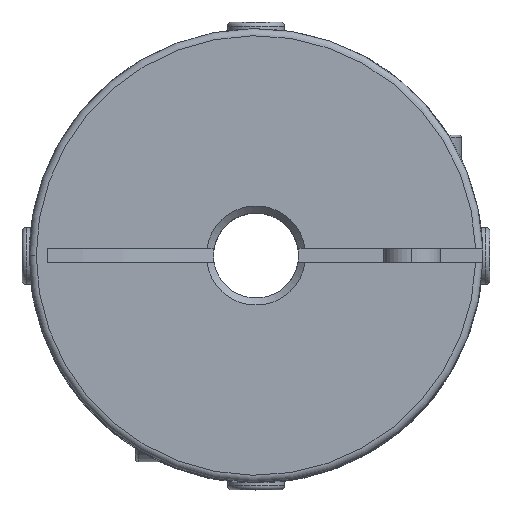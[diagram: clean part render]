
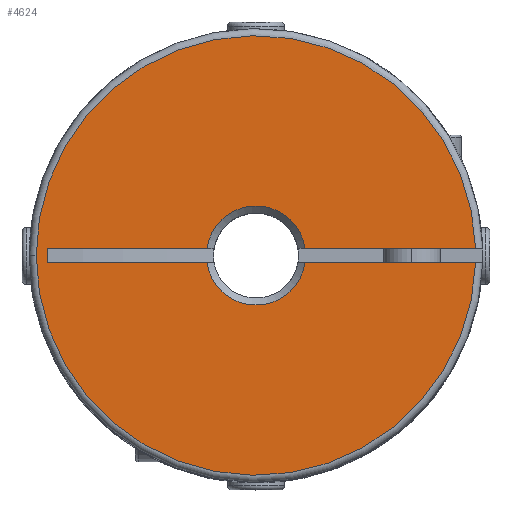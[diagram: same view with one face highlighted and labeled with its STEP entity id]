
A CAD part, top view. The second image highlights one B-rep face of the part: STEP entity #4624.
In plain terms, the highlighted planar face has unit normal (0, 0, 1).
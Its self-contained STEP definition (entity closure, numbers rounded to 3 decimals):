
#1656 = FACE_OUTER_BOUND ( 'NONE', #2661, .T. ) ;
#1659 = AXIS2_PLACEMENT_3D ( 'NONE', #9757, #9758, #9759 ) ;
#2661 = EDGE_LOOP ( 'NONE', ( #8116, #8120, #8119, #8121, #8122, #8123, #8124, #8125, #8126 ) ) ;
#3319 = AXIS2_PLACEMENT_3D ( 'NONE', #15632, #15633, #15634 ) ;
#3423 = AXIS2_PLACEMENT_3D ( 'NONE', #13962, #13966, #13967 ) ;
#3430 = AXIS2_PLACEMENT_3D ( 'NONE', #13944, #13945, #13946 ) ;
#3433 = AXIS2_PLACEMENT_3D ( 'NONE', #13947, #13960, #13961 ) ;
#3434 = VECTOR ( 'NONE', #13950, 1000. ) ;
#3435 = VECTOR ( 'NONE', #13953, 1000. ) ;
#3436 = VECTOR ( 'NONE', #13956, 1000. ) ;
#3437 = VECTOR ( 'NONE', #13959, 1000. ) ;
#3439 = VECTOR ( 'NONE', #13965, 1000. ) ;
#4624 = ADVANCED_FACE ( 'NONE', ( #1656 ), #9756, .T. ) ;
#5123 = CIRCLE ( 'NONE', #3319, 15.5 ) ;
#5194 = CIRCLE ( 'NONE', #3430, 3.5 ) ;
#5195 = CIRCLE ( 'NONE', #3433, 3.5 ) ;
#5196 = CIRCLE ( 'NONE', #3423, 15.5 ) ;
#7808 = EDGE_CURVE ( 'NONE', #11613, #11924, #5123, .T. ) ;
#7955 = EDGE_CURVE ( 'NONE', #11655, #11664, #5194, .T. ) ;
#7956 = EDGE_CURVE ( 'NONE', #12035, #11655, #13948, .T. ) ;
#7957 = EDGE_CURVE ( 'NONE', #11664, #11656, #13951, .T. ) ;
#7958 = EDGE_CURVE ( 'NONE', #11663, #11656, #13954, .T. ) ;
#7959 = EDGE_CURVE ( 'NONE', #11653, #11663, #13957, .T. ) ;
#7960 = EDGE_CURVE ( 'NONE', #11653, #11659, #5195, .T. ) ;
#7961 = EDGE_CURVE ( 'NONE', #11613, #11659, #13963, .T. ) ;
#7962 = EDGE_CURVE ( 'NONE', #11924, #12035, #5196, .T. ) ;
#8116 = ORIENTED_EDGE ( 'NONE', *, *, #7956, .T. ) ;
#8119 = ORIENTED_EDGE ( 'NONE', *, *, #7957, .T. ) ;
#8120 = ORIENTED_EDGE ( 'NONE', *, *, #7955, .T. ) ;
#8121 = ORIENTED_EDGE ( 'NONE', *, *, #7958, .F. ) ;
#8122 = ORIENTED_EDGE ( 'NONE', *, *, #7959, .F. ) ;
#8123 = ORIENTED_EDGE ( 'NONE', *, *, #7960, .T. ) ;
#8124 = ORIENTED_EDGE ( 'NONE', *, *, #7961, .F. ) ;
#8125 = ORIENTED_EDGE ( 'NONE', *, *, #7808, .T. ) ;
#8126 = ORIENTED_EDGE ( 'NONE', *, *, #7962, .T. ) ;
#9756 = PLANE ( 'NONE',  #1659 ) ;
#9757 = CARTESIAN_POINT ( 'NONE',  ( 0., 0., 19.5 ) ) ;
#9758 = DIRECTION ( 'NONE',  ( 0., 0., 1. ) ) ;
#9759 = DIRECTION ( 'NONE',  ( -1., 0., 0. ) ) ;
#11613 = VERTEX_POINT ( 'NONE', #14165 ) ;
#11653 = VERTEX_POINT ( 'NONE', #14205 ) ;
#11655 = VERTEX_POINT ( 'NONE', #14207 ) ;
#11656 = VERTEX_POINT ( 'NONE', #14208 ) ;
#11659 = VERTEX_POINT ( 'NONE', #14211 ) ;
#11663 = VERTEX_POINT ( 'NONE', #14215 ) ;
#11664 = VERTEX_POINT ( 'NONE', #14216 ) ;
#11924 = VERTEX_POINT ( 'NONE', #14431 ) ;
#12035 = VERTEX_POINT ( 'NONE', #14489 ) ;
#13944 = CARTESIAN_POINT ( 'NONE',  ( 0., 0., 19.5 ) ) ;
#13945 = DIRECTION ( 'NONE',  ( 0., 0., -1. ) ) ;
#13946 = DIRECTION ( 'NONE',  ( 0., -1., 0. ) ) ;
#13947 = CARTESIAN_POINT ( 'NONE',  ( 0., 0., 19.5 ) ) ;
#13948 = LINE ( 'NONE', #13949, #3434 ) ;
#13949 = CARTESIAN_POINT ( 'NONE',  ( 15.5, -0.5, 19.5 ) ) ;
#13950 = DIRECTION ( 'NONE',  ( -1., 0., 0. ) ) ;
#13951 = LINE ( 'NONE', #13952, #3435 ) ;
#13952 = CARTESIAN_POINT ( 'NONE',  ( 15.5, -0.5, 19.5 ) ) ;
#13953 = DIRECTION ( 'NONE',  ( -1., 0., 0. ) ) ;
#13954 = LINE ( 'NONE', #13955, #3436 ) ;
#13955 = CARTESIAN_POINT ( 'NONE',  ( -14.7, 0.5, 19.5 ) ) ;
#13956 = DIRECTION ( 'NONE',  ( 0., -1., 0. ) ) ;
#13957 = LINE ( 'NONE', #13958, #3437 ) ;
#13958 = CARTESIAN_POINT ( 'NONE',  ( 15.5, 0.5, 19.5 ) ) ;
#13959 = DIRECTION ( 'NONE',  ( -1., 0., 0. ) ) ;
#13960 = DIRECTION ( 'NONE',  ( 0., 0., -1. ) ) ;
#13961 = DIRECTION ( 'NONE',  ( 0., -1., 0. ) ) ;
#13962 = CARTESIAN_POINT ( 'NONE',  ( 0., 0., 19.5 ) ) ;
#13963 = LINE ( 'NONE', #13964, #3439 ) ;
#13964 = CARTESIAN_POINT ( 'NONE',  ( 15.5, 0.5, 19.5 ) ) ;
#13965 = DIRECTION ( 'NONE',  ( -1., 0., 0. ) ) ;
#13966 = DIRECTION ( 'NONE',  ( 0., 0., 1. ) ) ;
#13967 = DIRECTION ( 'NONE',  ( -1., 0., 0. ) ) ;
#14165 = CARTESIAN_POINT ( 'NONE',  ( 15.492, 0.5, 19.5 ) ) ;
#14205 = CARTESIAN_POINT ( 'NONE',  ( -3.464, 0.5, 19.5 ) ) ;
#14207 = CARTESIAN_POINT ( 'NONE',  ( 3.464, -0.5, 19.5 ) ) ;
#14208 = CARTESIAN_POINT ( 'NONE',  ( -14.7, -0.5, 19.5 ) ) ;
#14211 = CARTESIAN_POINT ( 'NONE',  ( 3.464, 0.5, 19.5 ) ) ;
#14215 = CARTESIAN_POINT ( 'NONE',  ( -14.7, 0.5, 19.5 ) ) ;
#14216 = CARTESIAN_POINT ( 'NONE',  ( -3.464, -0.5, 19.5 ) ) ;
#14431 = CARTESIAN_POINT ( 'NONE',  ( -15.5, 0., 19.5 ) ) ;
#14489 = CARTESIAN_POINT ( 'NONE',  ( 15.492, -0.5, 19.5 ) ) ;
#15632 = CARTESIAN_POINT ( 'NONE',  ( 0., 0., 19.5 ) ) ;
#15633 = DIRECTION ( 'NONE',  ( 0., 0., 1. ) ) ;
#15634 = DIRECTION ( 'NONE',  ( -1., 0., 0. ) ) ;
